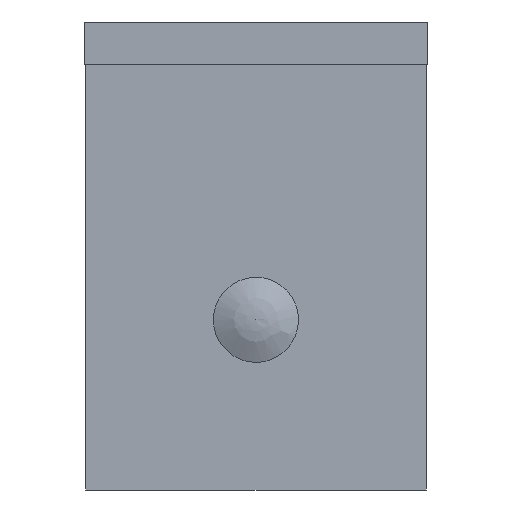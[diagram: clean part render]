
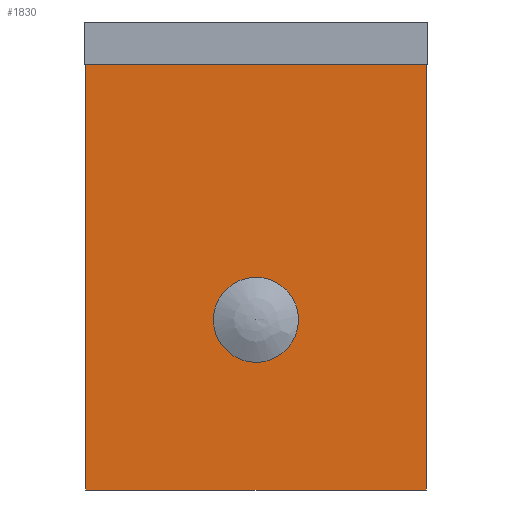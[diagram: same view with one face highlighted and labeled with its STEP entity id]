
A CAD part, left-side view. The second image highlights one B-rep face of the part: STEP entity #1830.
In plain terms, the highlighted planar face has unit normal (-1, 0, 0).
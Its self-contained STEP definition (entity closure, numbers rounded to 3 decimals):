
#1006=CARTESIAN_POINT('',(-15.,5.,-30.));
#1007=VERTEX_POINT('',#1006);
#1008=CARTESIAN_POINT('',(-15.,0.,-30.0));
#1009=DIRECTION('',(1.0,0.0,0.0));
#1010=DIRECTION('',(0.0,1.0,0.0));
#1011=AXIS2_PLACEMENT_3D('',#1008,#1009,#1010);
#1012=CIRCLE('',#1011,5.0);
#1013=EDGE_CURVE('',#1007,#1007,#1012,.T.);
#1460=CARTESIAN_POINT('',(-15.,-20.,0.));
#1461=VERTEX_POINT('',#1460);
#1478=CARTESIAN_POINT('',(-15.,20.,0.));
#1479=VERTEX_POINT('',#1478);
#1486=CARTESIAN_POINT('',(-15.,20.,0.));
#1487=DIRECTION('',(0.0,-1.0,0.0));
#1488=VECTOR('',#1487,40.0);
#1489=LINE('',#1486,#1488);
#1490=EDGE_CURVE('',#1479,#1461,#1489,.T.);
#1797=CARTESIAN_POINT('',(-15.,0.,-25.));
#1798=DIRECTION('',(-1.0,0.0,0.0));
#1799=DIRECTION('',(0.0,1.0,0.0));
#1800=AXIS2_PLACEMENT_3D('',#1797,#1798,#1799);
#1801=PLANE('',#1800);
#1802=CARTESIAN_POINT('',(-15.,-20.,-50.0));
#1803=VERTEX_POINT('',#1802);
#1804=CARTESIAN_POINT('',(-15.,-20.,0.));
#1805=DIRECTION('',(0.0,0.0,-1.0));
#1806=VECTOR('',#1805,50.);
#1807=LINE('',#1804,#1806);
#1808=EDGE_CURVE('',#1461,#1803,#1807,.T.);
#1809=ORIENTED_EDGE('',*,*,#1808,.F.);
#1810=ORIENTED_EDGE('',*,*,#1490,.F.);
#1811=CARTESIAN_POINT('',(-15.,20.,-50.0));
#1812=VERTEX_POINT('',#1811);
#1813=CARTESIAN_POINT('',(-15.,20.,-50.0));
#1814=DIRECTION('',(0.0,0.0,1.0));
#1815=VECTOR('',#1814,50.);
#1816=LINE('',#1813,#1815);
#1817=EDGE_CURVE('',#1812,#1479,#1816,.T.);
#1818=ORIENTED_EDGE('',*,*,#1817,.F.);
#1819=CARTESIAN_POINT('',(-15.,-20.,-50.0));
#1820=DIRECTION('',(0.0,1.0,0.0));
#1821=VECTOR('',#1820,40.);
#1822=LINE('',#1819,#1821);
#1823=EDGE_CURVE('',#1803,#1812,#1822,.T.);
#1824=ORIENTED_EDGE('',*,*,#1823,.F.);
#1825=EDGE_LOOP('',(#1809,#1810,#1818,#1824));
#1826=FACE_OUTER_BOUND('',#1825,.T.);
#1827=ORIENTED_EDGE('',*,*,#1013,.T.);
#1828=EDGE_LOOP('',(#1827));
#1829=FACE_BOUND('',#1828,.T.);
#1830=ADVANCED_FACE('',(#1826,#1829),#1801,.T.);
